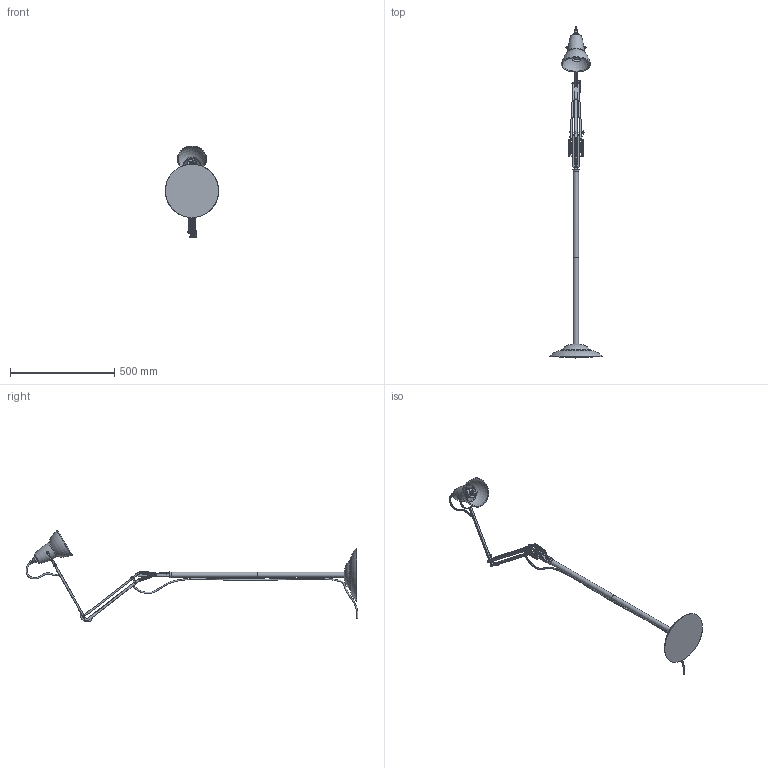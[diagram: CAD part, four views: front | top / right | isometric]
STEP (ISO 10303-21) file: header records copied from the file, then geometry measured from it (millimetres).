
FILE_DESCRIPTION (( 'STEP AP214' ), '1' );
FILE_NAME ('Duo1227_Floor_Lamp_Assembly_STEP_01.STEP', '2014-11-04T12:08:22', ( '' ), ( '' ), 'SwSTEP 2.0', 'SolidWorks 2014', '' );
FILE_SCHEMA (( 'AUTOMOTIVE_DESIGN' ));
Length unit declared in the file: millimetre
Products named in the file (1): Duo1227_Floor_Lamp_Assembly_STEP_01
Bounding box: 256 x 1592.35 x 441.2 mm (x, y, z)
Volume: 2274097.5 mm3; surface area: 422499.3 mm2
Topology: 1 solids, 2 shells, 1737 faces, 4239 edges, 2584 vertices
Faces by surface type: plane 750, cylinder 723, bspline 157, torus 65, sphere 40, cone 2
Full cylindrical faces by diameter (mm): 1.1 x1, 2.208 x1, 2.583 x1, 2.8 x5, 3 x8, 3.3 x2, 4 x2, 5 x14, 5.8 x1, 6 x4, 6.304 x2, 7 x8, 8 x10, 9 x5, 10 x2, 11 x1, 13.335 x2, 15 x1, 24.8 x2, 25 x1, 30 x1, 37.5 x1, 38.1 x1, 135 x1, 256 x1
Entity records: 96741 total; most frequent: CARTESIAN_POINT 52616, DIRECTION 8103, ORIENTED_EDGE 7906, EDGE_CURVE 3953, AXIS2_PLACEMENT_3D 3175, VERTEX_POINT 2498, EDGE_LOOP 2067, FACE_OUTER_BOUND 1908
